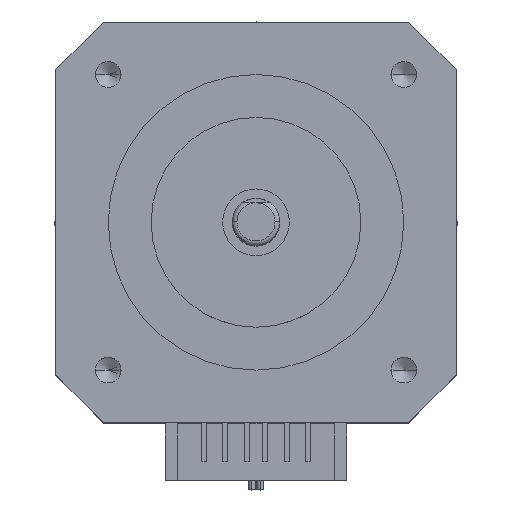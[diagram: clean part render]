
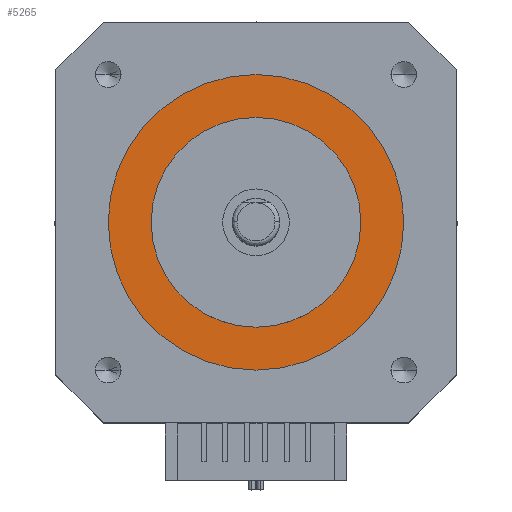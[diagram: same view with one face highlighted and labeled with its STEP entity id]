
A CAD part, top view. The second image highlights one B-rep face of the part: STEP entity #5265.
In plain terms, the highlighted planar face has unit normal (0, 0, 1).
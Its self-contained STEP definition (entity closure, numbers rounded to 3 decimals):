
#532 = CARTESIAN_POINT ( 'NONE',  ( 0., 0., 4.4 ) ) ;
#552 = CIRCLE ( 'NONE', #2251, 15.5 ) ;
#565 = DIRECTION ( 'NONE',  ( -1., 0., 0. ) ) ;
#581 = PLANE ( 'NONE',  #1637 ) ;
#642 = DIRECTION ( 'NONE',  ( 0., 0., 1. ) ) ;
#659 = CARTESIAN_POINT ( 'NONE',  ( -15.5, 0., 4.4 ) ) ;
#783 = FACE_OUTER_BOUND ( 'NONE', #4155, .T. ) ;
#1164 = CARTESIAN_POINT ( 'NONE',  ( 0., 0., 4.4 ) ) ;
#1218 = EDGE_CURVE ( 'NONE', #4029, #2104, #4682, .T. ) ;
#1248 = DIRECTION ( 'NONE',  ( 0., 0., 1. ) ) ;
#1306 = DIRECTION ( 'NONE',  ( 0., 0., -1. ) ) ;
#1359 = FACE_BOUND ( 'NONE', #8384, .T. ) ;
#1380 = VERTEX_POINT ( 'NONE', #659 ) ;
#1494 = ORIENTED_EDGE ( 'NONE', *, *, #9292, .F. ) ;
#1629 = CARTESIAN_POINT ( 'NONE',  ( 11., 0., 4.4 ) ) ;
#1637 = AXIS2_PLACEMENT_3D ( 'NONE', #5559, #1306, #7777 ) ;
#1892 = CARTESIAN_POINT ( 'NONE',  ( -11., 0., 4.4 ) ) ;
#2104 = VERTEX_POINT ( 'NONE', #1892 ) ;
#2251 = AXIS2_PLACEMENT_3D ( 'NONE', #1164, #4182, #3474 ) ;
#2572 = AXIS2_PLACEMENT_3D ( 'NONE', #9256, #642, #2807 ) ;
#2807 = DIRECTION ( 'NONE',  ( -1., 0., 0. ) ) ;
#2828 = CARTESIAN_POINT ( 'NONE',  ( 15.5, 0., 4.4 ) ) ;
#3474 = DIRECTION ( 'NONE',  ( 1., 0., 0. ) ) ;
#4029 = VERTEX_POINT ( 'NONE', #1629 ) ;
#4130 = DIRECTION ( 'NONE',  ( 1., 0., 0. ) ) ;
#4155 = EDGE_LOOP ( 'NONE', ( #8854, #4831 ) ) ;
#4182 = DIRECTION ( 'NONE',  ( 0., 0., 1. ) ) ;
#4682 = CIRCLE ( 'NONE', #8615, 11. ) ;
#4792 = DIRECTION ( 'NONE',  ( 0., 0., 1. ) ) ;
#4809 = CIRCLE ( 'NONE', #2572, 11. ) ;
#4831 = ORIENTED_EDGE ( 'NONE', *, *, #9195, .T. ) ;
#5265 = ADVANCED_FACE ( 'NONE', ( #1359, #783 ), #581, .F. ) ;
#5554 = CARTESIAN_POINT ( 'NONE',  ( 0., 0., 4.4 ) ) ;
#5559 = CARTESIAN_POINT ( 'NONE',  ( 0., 0., 4.4 ) ) ;
#5772 = EDGE_CURVE ( 'NONE', #7086, #1380, #552, .T. ) ;
#7086 = VERTEX_POINT ( 'NONE', #2828 ) ;
#7777 = DIRECTION ( 'NONE',  ( -1., 0., 0. ) ) ;
#8091 = CIRCLE ( 'NONE', #9204, 15.5 ) ;
#8384 = EDGE_LOOP ( 'NONE', ( #1494, #8740 ) ) ;
#8615 = AXIS2_PLACEMENT_3D ( 'NONE', #532, #1248, #565 ) ;
#8740 = ORIENTED_EDGE ( 'NONE', *, *, #1218, .F. ) ;
#8854 = ORIENTED_EDGE ( 'NONE', *, *, #5772, .T. ) ;
#9195 = EDGE_CURVE ( 'NONE', #1380, #7086, #8091, .T. ) ;
#9204 = AXIS2_PLACEMENT_3D ( 'NONE', #5554, #4792, #4130 ) ;
#9256 = CARTESIAN_POINT ( 'NONE',  ( 0., 0., 4.4 ) ) ;
#9292 = EDGE_CURVE ( 'NONE', #2104, #4029, #4809, .T. ) ;
